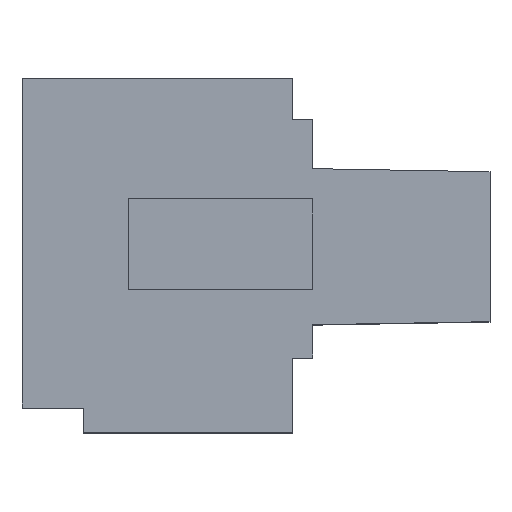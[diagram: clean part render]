
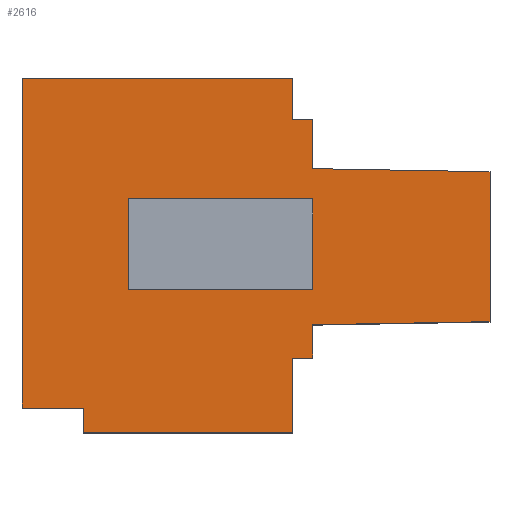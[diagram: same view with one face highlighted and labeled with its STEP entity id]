
A CAD part, top view. The second image highlights one B-rep face of the part: STEP entity #2616.
In plain terms, the highlighted planar face has unit normal (0, 0, 1).
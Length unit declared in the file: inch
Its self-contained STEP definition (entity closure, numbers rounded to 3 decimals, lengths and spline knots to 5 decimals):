
#415=DIRECTION('',(-1.,0.017,0.));
#416=VECTOR('',#415,0.30713);
#417=CARTESIAN_POINT('',(1.09352,0.16176,0.40875));
#418=LINE('',#417,#416);
#419=DIRECTION('',(0.,1.,0.));
#420=VECTOR('',#419,0.25984);
#421=CARTESIAN_POINT('',(1.09352,-0.09809,0.40875));
#422=LINE('',#421,#420);
#423=DIRECTION('',(1.,0.017,0.));
#424=VECTOR('',#423,0.30713);
#425=CARTESIAN_POINT('',(0.78644,-0.10345,0.40875));
#426=LINE('',#425,#424);
#427=DIRECTION('',(0.,1.,0.));
#428=VECTOR('',#427,0.05763);
#429=CARTESIAN_POINT('',(0.78644,-0.16108,0.40875));
#430=LINE('',#429,#428);
#431=DIRECTION('',(1.,0.,0.));
#432=VECTOR('',#431,0.03543);
#433=CARTESIAN_POINT('',(0.751,-0.16108,0.40875));
#434=LINE('',#433,#432);
#435=DIRECTION('',(0.,1.,0.));
#436=VECTOR('',#435,0.12992);
#437=CARTESIAN_POINT('',(0.751,-0.291,0.40875));
#438=LINE('',#437,#436);
#439=DIRECTION('',(1.,0.,0.));
#440=VECTOR('',#439,0.3622);
#441=CARTESIAN_POINT('',(0.3888,-0.291,0.40875));
#442=LINE('',#441,#440);
#443=DIRECTION('',(0.,-1.,0.));
#444=VECTOR('',#443,0.04331);
#445=CARTESIAN_POINT('',(0.3888,-0.24769,0.40875));
#446=LINE('',#445,#444);
#447=DIRECTION('',(1.,0.,0.));
#448=VECTOR('',#447,0.1063);
#449=CARTESIAN_POINT('',(0.2825,-0.24769,0.40875));
#450=LINE('',#449,#448);
#451=DIRECTION('',(0.,-1.,0.));
#452=VECTOR('',#451,0.57087);
#453=CARTESIAN_POINT('',(0.2825,0.32317,0.40875));
#454=LINE('',#453,#452);
#455=DIRECTION('',(-1.,0.,0.));
#456=VECTOR('',#455,0.4685);
#457=CARTESIAN_POINT('',(0.751,0.32317,0.40875));
#458=LINE('',#457,#456);
#459=DIRECTION('',(0.,1.,0.));
#460=VECTOR('',#459,0.07087);
#461=CARTESIAN_POINT('',(0.751,0.25231,0.40875));
#462=LINE('',#461,#460);
#463=DIRECTION('',(-1.,0.,0.));
#464=VECTOR('',#463,0.03543);
#465=CARTESIAN_POINT('',(0.78644,0.25231,0.40875));
#466=LINE('',#465,#464);
#467=DIRECTION('',(0.,1.,0.));
#468=VECTOR('',#467,0.08519);
#469=CARTESIAN_POINT('',(0.78644,0.16712,0.40875));
#470=LINE('',#469,#468);
#471=DIRECTION('',(0.,1.,0.));
#472=VECTOR('',#471,0.15748);
#473=CARTESIAN_POINT('',(0.78644,-0.04297,0.40875));
#474=LINE('',#473,#472);
#475=DIRECTION('',(-1.,0.,0.));
#476=VECTOR('',#475,0.3189);
#477=CARTESIAN_POINT('',(0.78644,0.11451,0.40875));
#478=LINE('',#477,#476);
#479=DIRECTION('',(0.,-1.,0.));
#480=VECTOR('',#479,0.15748);
#481=CARTESIAN_POINT('',(0.46754,0.11451,0.40875));
#482=LINE('',#481,#480);
#483=DIRECTION('',(1.,0.,0.));
#484=VECTOR('',#483,0.3189);
#485=CARTESIAN_POINT('',(0.46754,-0.04297,0.40875));
#486=LINE('',#485,#484);
#1719=CARTESIAN_POINT('',(1.09352,0.16176,0.40875));
#1720=CARTESIAN_POINT('',(0.78644,0.16712,0.40875));
#1721=VERTEX_POINT('',#1719);
#1722=VERTEX_POINT('',#1720);
#1723=CARTESIAN_POINT('',(0.78644,0.25231,0.40875));
#1724=VERTEX_POINT('',#1723);
#1725=CARTESIAN_POINT('',(0.751,0.25231,0.40875));
#1726=VERTEX_POINT('',#1725);
#1727=CARTESIAN_POINT('',(0.751,0.32317,0.40875));
#1728=VERTEX_POINT('',#1727);
#1729=CARTESIAN_POINT('',(0.2825,0.32317,0.40875));
#1730=VERTEX_POINT('',#1729);
#1731=CARTESIAN_POINT('',(0.2825,-0.24769,0.40875));
#1732=VERTEX_POINT('',#1731);
#1733=CARTESIAN_POINT('',(0.3888,-0.24769,0.40875));
#1734=VERTEX_POINT('',#1733);
#1735=CARTESIAN_POINT('',(0.3888,-0.291,0.40875));
#1736=VERTEX_POINT('',#1735);
#1737=CARTESIAN_POINT('',(0.751,-0.291,0.40875));
#1738=VERTEX_POINT('',#1737);
#1739=CARTESIAN_POINT('',(0.751,-0.16108,0.40875));
#1740=VERTEX_POINT('',#1739);
#1741=CARTESIAN_POINT('',(0.78644,-0.16108,0.40875));
#1742=VERTEX_POINT('',#1741);
#1743=CARTESIAN_POINT('',(0.78644,-0.10345,0.40875));
#1744=VERTEX_POINT('',#1743);
#1745=CARTESIAN_POINT('',(1.09352,-0.09809,0.40875));
#1746=VERTEX_POINT('',#1745);
#1987=CARTESIAN_POINT('',(0.78644,-0.04297,0.40875));
#1988=CARTESIAN_POINT('',(0.78644,0.11451,0.40875));
#1989=VERTEX_POINT('',#1987);
#1990=VERTEX_POINT('',#1988);
#1991=CARTESIAN_POINT('',(0.46754,0.11451,0.40875));
#1992=VERTEX_POINT('',#1991);
#1993=CARTESIAN_POINT('',(0.46754,-0.04297,0.40875));
#1994=VERTEX_POINT('',#1993);
#2585=CARTESIAN_POINT('',(0.2825,0.32317,0.40875));
#2586=DIRECTION('',(0.,0.,1.));
#2587=DIRECTION('',(-1.,0.,0.));
#2588=AXIS2_PLACEMENT_3D('',#2585,#2586,#2587);
#2589=PLANE('',#2588);
#2590=ORIENTED_EDGE('',*,*,#2241,.F.);
#2591=ORIENTED_EDGE('',*,*,#2256,.F.);
#2592=ORIENTED_EDGE('',*,*,#2330,.F.);
#2593=ORIENTED_EDGE('',*,*,#2344,.F.);
#2594=ORIENTED_EDGE('',*,*,#2358,.F.);
#2595=ORIENTED_EDGE('',*,*,#2372,.F.);
#2596=ORIENTED_EDGE('',*,*,#2386,.F.);
#2597=ORIENTED_EDGE('',*,*,#2400,.F.);
#2598=ORIENTED_EDGE('',*,*,#2414,.F.);
#2599=ORIENTED_EDGE('',*,*,#2428,.F.);
#2600=ORIENTED_EDGE('',*,*,#2538,.F.);
#2601=ORIENTED_EDGE('',*,*,#2552,.F.);
#2602=ORIENTED_EDGE('',*,*,#2566,.F.);
#2603=ORIENTED_EDGE('',*,*,#2579,.F.);
#2604=EDGE_LOOP('',(#2590,#2591,#2592,#2593,#2594,#2595,#2596,#2597,#2598,#2599,
#2600,#2601,#2602,#2603));
#2605=FACE_OUTER_BOUND('',#2604,.F.);
#2607=ORIENTED_EDGE('',*,*,#2606,.T.);
#2609=ORIENTED_EDGE('',*,*,#2608,.T.);
#2611=ORIENTED_EDGE('',*,*,#2610,.T.);
#2613=ORIENTED_EDGE('',*,*,#2612,.T.);
#2614=EDGE_LOOP('',(#2607,#2609,#2611,#2613));
#2615=FACE_BOUND('',#2614,.F.);
#2616=ADVANCED_FACE('',(#2605,#2615),#2589,.T.);
#2241=EDGE_CURVE('',#1721,#1722,#418,.T.);
#2256=EDGE_CURVE('',#1746,#1721,#422,.T.);
#2330=EDGE_CURVE('',#1744,#1746,#426,.T.);
#2344=EDGE_CURVE('',#1742,#1744,#430,.T.);
#2358=EDGE_CURVE('',#1740,#1742,#434,.T.);
#2372=EDGE_CURVE('',#1738,#1740,#438,.T.);
#2386=EDGE_CURVE('',#1736,#1738,#442,.T.);
#2400=EDGE_CURVE('',#1734,#1736,#446,.T.);
#2414=EDGE_CURVE('',#1732,#1734,#450,.T.);
#2428=EDGE_CURVE('',#1730,#1732,#454,.T.);
#2538=EDGE_CURVE('',#1728,#1730,#458,.T.);
#2552=EDGE_CURVE('',#1726,#1728,#462,.T.);
#2566=EDGE_CURVE('',#1724,#1726,#466,.T.);
#2579=EDGE_CURVE('',#1722,#1724,#470,.T.);
#2606=EDGE_CURVE('',#1989,#1990,#474,.T.);
#2608=EDGE_CURVE('',#1990,#1992,#478,.T.);
#2610=EDGE_CURVE('',#1992,#1994,#482,.T.);
#2612=EDGE_CURVE('',#1994,#1989,#486,.T.);
